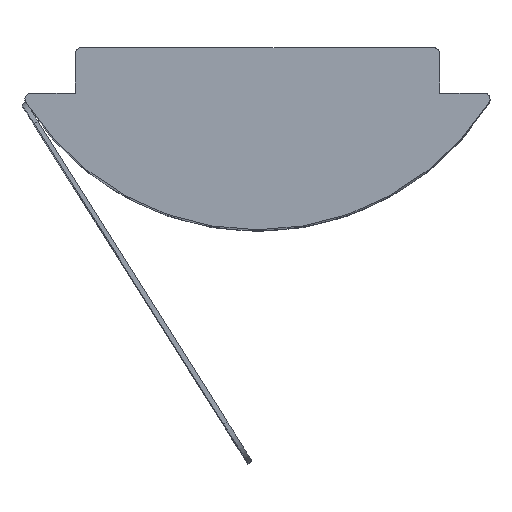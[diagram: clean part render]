
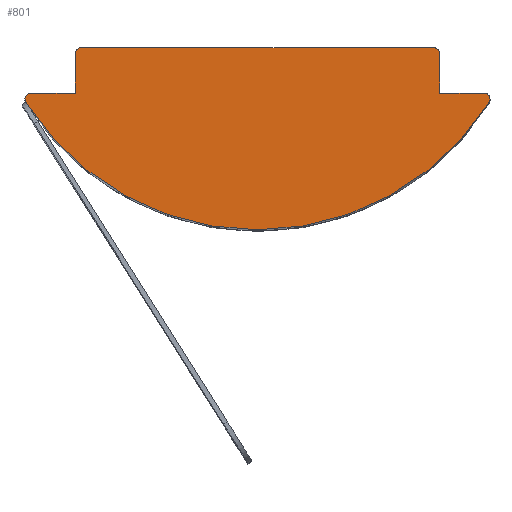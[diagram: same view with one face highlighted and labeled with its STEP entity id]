
A CAD part, top view. The second image highlights one B-rep face of the part: STEP entity #801.
In plain terms, the highlighted planar face has unit normal (0, 0, 1).
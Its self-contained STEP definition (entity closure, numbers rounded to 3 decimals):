
#3 = EDGE_CURVE ( 'NONE', #580, #109, #383, .T. ) ;
#11 = DIRECTION ( 'NONE',  ( 0., 1., 0. ) ) ;
#21 = DIRECTION ( 'NONE',  ( -1., 0., 0. ) ) ;
#25 = CARTESIAN_POINT ( 'NONE',  ( 4., 2.013, 20. ) ) ;
#54 = CARTESIAN_POINT ( 'NONE',  ( -1.084, -1.192, 20. ) ) ;
#74 = DIRECTION ( 'NONE',  ( -1., 0., 0. ) ) ;
#80 = CARTESIAN_POINT ( 'NONE',  ( 0., -1., 20. ) ) ;
#93 = DIRECTION ( 'NONE',  ( 0., 0., 1. ) ) ;
#102 = CARTESIAN_POINT ( 'NONE',  ( -0.978, -1.125, 20. ) ) ;
#109 = VERTEX_POINT ( 'NONE', #643 ) ;
#123 = AXIS2_PLACEMENT_3D ( 'NONE', #242, #143, #559 ) ;
#127 = VERTEX_POINT ( 'NONE', #1282 ) ;
#132 = CARTESIAN_POINT ( 'NONE',  ( 0.125, 0., 20. ) ) ;
#143 = DIRECTION ( 'NONE',  ( 0., 0., 1. ) ) ;
#197 = DIRECTION ( 'NONE',  ( 0., 0., 1. ) ) ;
#204 = AXIS2_PLACEMENT_3D ( 'NONE', #1180, #945, #1377 ) ;
#217 = ORIENTED_EDGE ( 'NONE', *, *, #660, .T. ) ;
#229 = VERTEX_POINT ( 'NONE', #1238 ) ;
#242 = CARTESIAN_POINT ( 'NONE',  ( 8.978, -1.125, 20. ) ) ;
#244 = LINE ( 'NONE', #1227, #308 ) ;
#249 = VECTOR ( 'NONE', #11, 1000. ) ;
#251 = EDGE_CURVE ( 'NONE', #378, #721, #244, .T. ) ;
#294 = ORIENTED_EDGE ( 'NONE', *, *, #687, .T. ) ;
#300 = EDGE_CURVE ( 'NONE', #229, #1191, #792, .T. ) ;
#301 = LINE ( 'NONE', #876, #249 ) ;
#308 = VECTOR ( 'NONE', #21, 1000. ) ;
#318 = DIRECTION ( 'NONE',  ( 0., 0., 1. ) ) ;
#335 = ORIENTED_EDGE ( 'NONE', *, *, #3, .T. ) ;
#356 = DIRECTION ( 'NONE',  ( 0., 0., 1. ) ) ;
#375 = LINE ( 'NONE', #402, #867 ) ;
#378 = VERTEX_POINT ( 'NONE', #1082 ) ;
#383 = CIRCLE ( 'NONE', #204, 6.01 ) ;
#402 = CARTESIAN_POINT ( 'NONE',  ( 0., 0., 20. ) ) ;
#405 = CIRCLE ( 'NONE', #123, 0.125 ) ;
#464 = ORIENTED_EDGE ( 'NONE', *, *, #1067, .T. ) ;
#494 = CARTESIAN_POINT ( 'NONE',  ( -0.978, -1.125, 20. ) ) ;
#506 = CARTESIAN_POINT ( 'NONE',  ( 7.875, -0.125, 20. ) ) ;
#536 = EDGE_CURVE ( 'NONE', #616, #751, #678, .T. ) ;
#556 = DIRECTION ( 'NONE',  ( 1., 0., 0. ) ) ;
#559 = DIRECTION ( 'NONE',  ( 1., 0., 0. ) ) ;
#579 = PLANE ( 'NONE',  #1127 ) ;
#580 = VERTEX_POINT ( 'NONE', #54 ) ;
#593 = LINE ( 'NONE', #80, #1358 ) ;
#616 = VERTEX_POINT ( 'NONE', #621 ) ;
#621 = CARTESIAN_POINT ( 'NONE',  ( 8., -0.125, 20. ) ) ;
#628 = CARTESIAN_POINT ( 'NONE',  ( 0., -0.125, 20. ) ) ;
#633 = DIRECTION ( 'NONE',  ( -1., 0., 0. ) ) ;
#635 = CARTESIAN_POINT ( 'NONE',  ( 0., 0., 20. ) ) ;
#643 = CARTESIAN_POINT ( 'NONE',  ( 9.084, -1.192, 20. ) ) ;
#650 = DIRECTION ( 'NONE',  ( 1., 0., 0. ) ) ;
#660 = EDGE_CURVE ( 'NONE', #751, #776, #375, .T. ) ;
#662 = CIRCLE ( 'NONE', #1366, 0.125 ) ;
#678 = CIRCLE ( 'NONE', #923, 0.125 ) ;
#687 = EDGE_CURVE ( 'NONE', #1191, #580, #914, .T. ) ;
#699 = EDGE_CURVE ( 'NONE', #776, #1221, #662, .T. ) ;
#721 = VERTEX_POINT ( 'NONE', #760 ) ;
#741 = CARTESIAN_POINT ( 'NONE',  ( -1.103, -1.125, 20. ) ) ;
#747 = EDGE_CURVE ( 'NONE', #109, #378, #405, .T. ) ;
#751 = VERTEX_POINT ( 'NONE', #1254 ) ;
#760 = CARTESIAN_POINT ( 'NONE',  ( 8., -1., 20. ) ) ;
#773 = ORIENTED_EDGE ( 'NONE', *, *, #699, .T. ) ;
#776 = VERTEX_POINT ( 'NONE', #132 ) ;
#792 = CIRCLE ( 'NONE', #1175, 0.125 ) ;
#801 = ADVANCED_FACE ( 'NONE', ( #1257 ), #579, .T. ) ;
#804 = ORIENTED_EDGE ( 'NONE', *, *, #300, .T. ) ;
#805 = DIRECTION ( 'NONE',  ( 1., 0., 0. ) ) ;
#849 = ORIENTED_EDGE ( 'NONE', *, *, #1204, .T. ) ;
#867 = VECTOR ( 'NONE', #74, 1000. ) ;
#876 = CARTESIAN_POINT ( 'NONE',  ( 8., 0., 20. ) ) ;
#898 = AXIS2_PLACEMENT_3D ( 'NONE', #494, #197, #1203 ) ;
#914 = CIRCLE ( 'NONE', #898, 0.125 ) ;
#923 = AXIS2_PLACEMENT_3D ( 'NONE', #506, #941, #1273 ) ;
#941 = DIRECTION ( 'NONE',  ( 0., 0., 1. ) ) ;
#943 = ORIENTED_EDGE ( 'NONE', *, *, #747, .T. ) ;
#945 = DIRECTION ( 'NONE',  ( 0., 0., 1. ) ) ;
#962 = CARTESIAN_POINT ( 'NONE',  ( 0.125, -0.125, 20. ) ) ;
#1060 = ORIENTED_EDGE ( 'NONE', *, *, #536, .T. ) ;
#1067 = EDGE_CURVE ( 'NONE', #127, #229, #593, .T. ) ;
#1082 = CARTESIAN_POINT ( 'NONE',  ( 8.978, -1., 20. ) ) ;
#1127 = AXIS2_PLACEMENT_3D ( 'NONE', #25, #356, #805 ) ;
#1141 = ORIENTED_EDGE ( 'NONE', *, *, #1340, .T. ) ;
#1175 = AXIS2_PLACEMENT_3D ( 'NONE', #102, #318, #650 ) ;
#1180 = CARTESIAN_POINT ( 'NONE',  ( 4., 2.013, 20. ) ) ;
#1191 = VERTEX_POINT ( 'NONE', #741 ) ;
#1203 = DIRECTION ( 'NONE',  ( 1., 0., 0. ) ) ;
#1204 = EDGE_CURVE ( 'NONE', #1221, #127, #1370, .T. ) ;
#1217 = EDGE_LOOP ( 'NONE', ( #335, #943, #1281, #1141, #1060, #217, #773, #849, #464, #804, #294 ) ) ;
#1221 = VERTEX_POINT ( 'NONE', #628 ) ;
#1227 = CARTESIAN_POINT ( 'NONE',  ( 8., -1., 20. ) ) ;
#1238 = CARTESIAN_POINT ( 'NONE',  ( -0.978, -1., 20. ) ) ;
#1254 = CARTESIAN_POINT ( 'NONE',  ( 7.875, 0., 20. ) ) ;
#1257 = FACE_OUTER_BOUND ( 'NONE', #1217, .T. ) ;
#1273 = DIRECTION ( 'NONE',  ( 1., 0., 0. ) ) ;
#1281 = ORIENTED_EDGE ( 'NONE', *, *, #251, .T. ) ;
#1282 = CARTESIAN_POINT ( 'NONE',  ( 0., -1., 20. ) ) ;
#1311 = VECTOR ( 'NONE', #1322, 1000. ) ;
#1322 = DIRECTION ( 'NONE',  ( 0., -1., 0. ) ) ;
#1340 = EDGE_CURVE ( 'NONE', #721, #616, #301, .T. ) ;
#1358 = VECTOR ( 'NONE', #633, 1000. ) ;
#1366 = AXIS2_PLACEMENT_3D ( 'NONE', #962, #93, #556 ) ;
#1370 = LINE ( 'NONE', #635, #1311 ) ;
#1377 = DIRECTION ( 'NONE',  ( 1., 0., 0. ) ) ;
